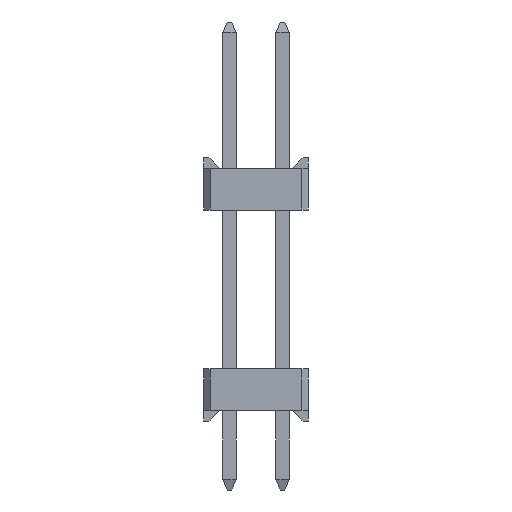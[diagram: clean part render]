
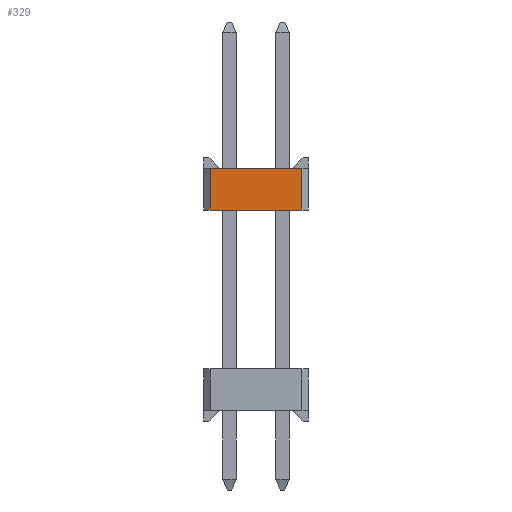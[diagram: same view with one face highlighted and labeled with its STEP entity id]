
A CAD part, left-side view. The second image highlights one B-rep face of the part: STEP entity #329.
In plain terms, the highlighted planar face has unit normal (-1, 0, 0).
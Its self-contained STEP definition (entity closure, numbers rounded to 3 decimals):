
#329=ADVANCED_FACE('',(#4153),#2241,.T.);
#2241=PLANE('',#36514);
#4153=FACE_OUTER_BOUND('',#6165,.T.);
#6165=EDGE_LOOP('',(#10034,#10035,#10036,#10037));
#10034=ORIENTED_EDGE('',*,*,#23112,.T.);
#10035=ORIENTED_EDGE('',*,*,#22913,.T.);
#10036=ORIENTED_EDGE('',*,*,#23113,.F.);
#10037=ORIENTED_EDGE('',*,*,#23114,.T.);
#19567=VERTEX_POINT('',#50279);
#19568=VERTEX_POINT('',#50281);
#19710=VERTEX_POINT('',#50624);
#19711=VERTEX_POINT('',#50626);
#22913=EDGE_CURVE('',#19568,#19567,#27937,.T.);
#23112=EDGE_CURVE('',#19710,#19568,#28136,.T.);
#23113=EDGE_CURVE('',#19711,#19567,#28137,.T.);
#23114=EDGE_CURVE('',#19711,#19710,#28138,.T.);
#27937=LINE('',#50280,#32961);
#28136=LINE('',#50623,#33160);
#28137=LINE('',#50625,#33161);
#28138=LINE('',#50627,#33162);
#32961=VECTOR('',#40086,1.);
#33160=VECTOR('',#40289,1.);
#33161=VECTOR('',#40290,1.);
#33162=VECTOR('',#40291,1.);
#36514=AXIS2_PLACEMENT_3D('',#50628,#40292,#40293);
#40086=DIRECTION('',(0.,1.,0.));
#40289=DIRECTION('',(0.,0.,1.));
#40290=DIRECTION('',(0.,0.,1.));
#40291=DIRECTION('',(0.,-1.,0.));
#40292=DIRECTION('',(-1.,0.,0.));
#40293=DIRECTION('',(0.,0.,1.));
#50279=CARTESIAN_POINT('',(0.,4.7,2.));
#50280=CARTESIAN_POINT('',(0.,2.5,2.));
#50281=CARTESIAN_POINT('',(0.,0.3,2.));
#50623=CARTESIAN_POINT('',(0.,0.3,-98.));
#50624=CARTESIAN_POINT('',(0.,0.3,0.));
#50625=CARTESIAN_POINT('',(0.,4.7,-98.));
#50626=CARTESIAN_POINT('',(0.,4.7,0.));
#50627=CARTESIAN_POINT('',(0.,2.5,0.));
#50628=CARTESIAN_POINT('',(0.,2.5,0.));
